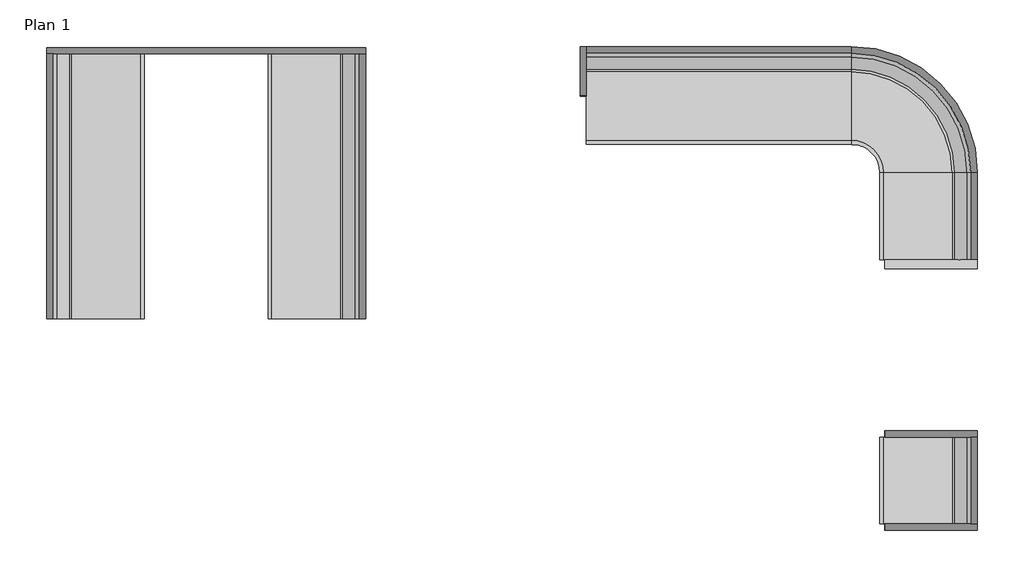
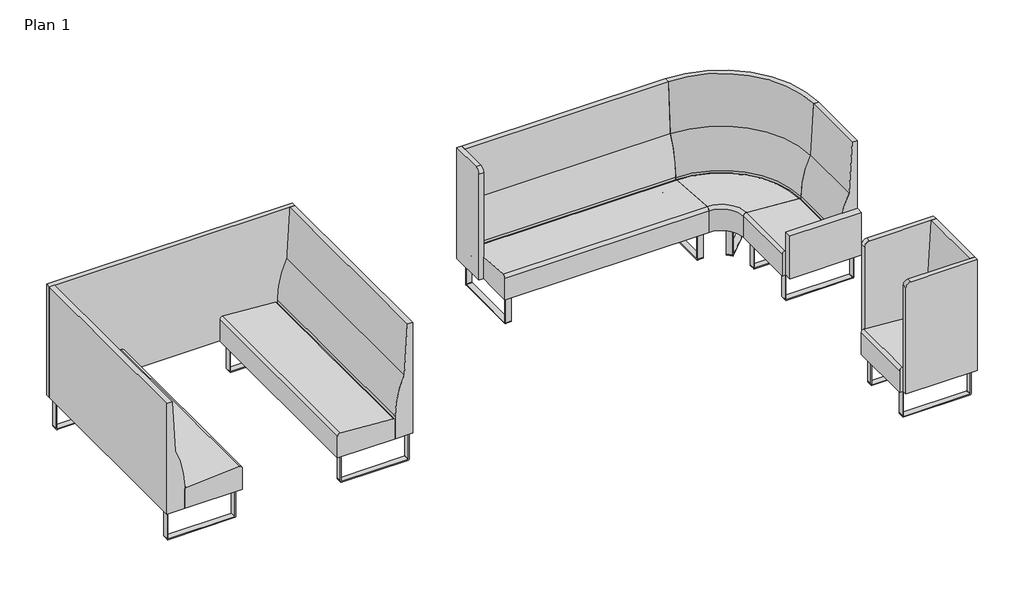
# One storey: 11 furniture elements.
"""IFC4 building model written with IfcOpenShell, lengths in millimetres."""

import ifcopenshell
import ifcopenshell.guid

model = None  # the IFC model being written
_history = None  # IfcOwnerHistory: only IFC2X3 demands one
_inside = {}  # id of a spatial element -> (the spatial element, [elements in it])
_under = {}  # id of a project, library or spatial element -> (it, [spatial elements below it])
_declared = {}  # id of a project -> (the project, [libraries it declares])
_typed = {}  # id of a type object -> (the type object, [elements of that type])
_made_of = {}  # id of a material, layer set ... -> (it, [elements and type objects made of it])


def new_model(schema):
    """Start an empty IFC model of exactly this schema.

    Asked for "IFC4X3", IfcOpenShell would pick the latest addendum, in which some entities
    have other attributes; the version numbers below select the first issue.
    IFC2X3 requires an IfcOwnerHistory on every rooted entity: one is made here for all.
    """
    global model, _history
    if schema == "IFC4X3":
        model = ifcopenshell.file(schema_version=(4, 3, 0, 0))
    else:
        model = ifcopenshell.file(schema=schema)
    _inside.clear()
    _under.clear()
    _declared.clear()
    _typed.clear()
    _made_of.clear()
    _history = None
    if model.schema == "IFC2X3":
        org = make("IfcOrganization", Name="unknown")
        user = make(
            "IfcPersonAndOrganization",
            ThePerson=make("IfcPerson", FamilyName="unknown"),
            TheOrganization=org,
        )
        app = make(
            "IfcApplication",
            ApplicationDeveloper=org,
            Version="unknown",
            ApplicationFullName="unknown",
            ApplicationIdentifier="unknown",
        )
        _history = make(
            "IfcOwnerHistory",
            OwningUser=user,
            OwningApplication=app,
            ChangeAction="ADDED",
            CreationDate=0,
        )
    return model


def make(cls, **values):
    """One entity of the class cls with the attributes given. An attribute that is None is left unset."""
    return model.create_entity(
        cls, **{name: value for name, value in values.items() if value is not None}
    )


def rooted(cls, **values):
    """An entity with a GlobalId (a new one), such as an element, a storey or a relation."""
    return make(cls, GlobalId=ifcopenshell.guid.new(), OwnerHistory=_history, **values)


def si_unit(unit_type, name, prefix=None):
    """IfcSIUnit, for example si_unit("LENGTHUNIT", "METRE", prefix="MILLI")."""
    return make("IfcSIUnit", UnitType=unit_type, Prefix=prefix, Name=name)


def assignment(units):
    """IfcUnitAssignment: the units of a project."""
    return None if units is None else make("IfcUnitAssignment", Units=units)


def point(xyz):
    """IfcCartesianPoint."""
    return None if xyz is None else make("IfcCartesianPoint", Coordinates=xyz)


def direction(xyz):
    """IfcDirection."""
    return None if xyz is None else make("IfcDirection", DirectionRatios=xyz)


def frame(location, z_axis=None, x_axis=None):
    """IfcAxis2Placement3D, a coordinate frame: its origin and axes. An axis left out is left unset."""
    return make(
        "IfcAxis2Placement3D",
        Location=point(location),
        Axis=direction(z_axis),
        RefDirection=direction(x_axis),
    )


def frame_2d(location, x_axis=None):
    """IfcAxis2Placement2D, a coordinate frame in the plane: its origin and x axis."""
    return make(
        "IfcAxis2Placement2D", Location=point(location), RefDirection=direction(x_axis)
    )


def origin():
    """The frame at (0, 0, 0) with its axes left unset."""
    return frame((0.0, 0.0, 0.0))


def place(relative_to, where):
    """IfcLocalPlacement: puts the frame where relative to a parent placement (None: the world)."""
    return make(
        "IfcLocalPlacement", PlacementRelTo=relative_to, RelativePlacement=where
    )


def context(
    kind, dimensions, precision=None, world=None, true_north=None, identifier=None
):
    """IfcGeometricRepresentationContext, for example the 3D "Model" context."""
    return make(
        "IfcGeometricRepresentationContext",
        ContextIdentifier=identifier,
        ContextType=kind,
        CoordinateSpaceDimension=dimensions,
        Precision=precision,
        WorldCoordinateSystem=world,
        TrueNorth=true_north,
    )


def project(units=None, contexts=None):
    """IfcProject with its units and contexts."""
    return rooted(
        "IfcProject",
        Name="project",
        RepresentationContexts=contexts,
        UnitsInContext=assignment(units),
    )


def spatial(cls, under=None, at=None, **own):
    """A site, building, storey or space (cls), placed at a placement, below another one or the project."""
    s = rooted(cls, ObjectPlacement=at, **own)
    if under is not None:
        _under.setdefault(under.id(), (under, []))[1].append(s)
    return s


def polyline(points):
    """IfcPolyline through the points."""
    return make("IfcPolyline", Points=[point(p) for p in points])


def circle_curve(where, radius):
    """IfcCircle in the frame where."""
    return make("IfcCircle", Position=where, Radius=radius)


def ellipse_curve(where, semi_axis1, semi_axis2):
    """IfcEllipse in the frame where."""
    return make(
        "IfcEllipse", Position=where, SemiAxis1=semi_axis1, SemiAxis2=semi_axis2
    )


def trimmed(basis, trim1, trim2, sense, master):
    """IfcTrimmedCurve: the piece of a basis curve between two trims."""
    return make(
        "IfcTrimmedCurve",
        BasisCurve=basis,
        Trim1=trim1,
        Trim2=trim2,
        SenseAgreement=sense,
        MasterRepresentation=master,
    )


def segment(curve, same_sense, transition):
    """IfcCompositeCurveSegment."""
    return make(
        "IfcCompositeCurveSegment",
        Transition=transition,
        SameSense=same_sense,
        ParentCurve=curve,
    )


def composite_curve(segments, self_intersect=None):
    """IfcCompositeCurve: segments joined end to end."""
    return make("IfcCompositeCurve", Segments=segments, SelfIntersect=self_intersect)


def outline(outer, holes=None, kind="AREA"):
    """IfcArbitraryClosedProfileDef: a profile drawn as a closed curve; with holes, ...WithVoids."""
    if holes is None:
        return make("IfcArbitraryClosedProfileDef", ProfileType=kind, OuterCurve=outer)
    return make(
        "IfcArbitraryProfileDefWithVoids",
        ProfileType=kind,
        OuterCurve=outer,
        InnerCurves=holes,
    )


def extrude(swept, where, along, depth):
    """IfcExtrudedAreaSolid: the profile swept, set in the frame where, extruded along a direction by depth."""
    return make(
        "IfcExtrudedAreaSolid",
        SweptArea=swept,
        Position=where,
        ExtrudedDirection=direction(along),
        Depth=depth,
    )


def shape(context_of_items, identifier, shape_type, items):
    """IfcShapeRepresentation: the items that make up one representation, for example the "Body"."""
    return make(
        "IfcShapeRepresentation",
        ContextOfItems=context_of_items,
        RepresentationIdentifier=identifier,
        RepresentationType=shape_type,
        Items=items,
    )


def source(mapping_origin, context_of_items, identifier, shape_type, items):
    """IfcRepresentationMap: a shape defined once, which mapped items show again and again."""
    return make(
        "IfcRepresentationMap",
        MappingOrigin=mapping_origin,
        MappedRepresentation=shape(context_of_items, identifier, shape_type, items),
    )


def transform(
    local_origin,
    x_axis=None,
    y_axis=None,
    z_axis=None,
    scale=None,
    scale2=None,
    scale3=None,
    uniform=True,
):
    """IfcCartesianTransformationOperator3D, or its non-uniform kind. x_axis, y_axis, z_axis: its Axis1, 2, 3."""
    if uniform:
        return make(
            "IfcCartesianTransformationOperator3D",
            Axis1=direction(x_axis),
            Axis2=direction(y_axis),
            LocalOrigin=point(local_origin),
            Scale=scale,
            Axis3=direction(z_axis),
        )
    return make(
        "IfcCartesianTransformationOperator3DnonUniform",
        Axis1=direction(x_axis),
        Axis2=direction(y_axis),
        LocalOrigin=point(local_origin),
        Scale=scale,
        Axis3=direction(z_axis),
        Scale2=scale2,
        Scale3=scale3,
    )


def mapped(mapping_source, mapping_target):
    """IfcMappedItem: shows the shape of a source again, moved by a transform."""
    return make(
        "IfcMappedItem", MappingSource=mapping_source, MappingTarget=mapping_target
    )


def made_of(thing, what):
    """Note that an element or type object is made of a material, layer set ...; save() writes the relation."""
    if what is not None:
        _made_of.setdefault(what.id(), (what, []))[1].append(thing)
    return thing


def element(
    cls,
    number,
    at=None,
    inside=None,
    cuts=None,
    type_object=None,
    material=None,
    context=None,
    identifier="Body",
    shape_type=None,
    held_by="IfcProductDefinitionShape",
    body=None,
    shapes=None,
    **own,
):
    """One element of the class cls, such as IfcWall. Its Tag is "e" and its number.

    at: its placement. inside: the storey or other place that contains it. cuts: it is an
    opening in that element (IfcRelVoidsElement). A single representation is given by context,
    identifier, shape_type and body (its items); several are given by shapes. held_by: the class
    of the entity that holds the representations. save() writes the other relations.
    """
    e = rooted(cls, Tag="e%d" % number, ObjectPlacement=at, **own)
    if body is not None:
        shapes = [shape(context, identifier, shape_type, body)]
    if shapes is not None:
        e.Representation = make(held_by, Representations=shapes)
    if inside is not None:
        _inside.setdefault(inside.id(), (inside, []))[1].append(e)
    if cuts is not None:
        rooted(
            "IfcRelVoidsElement", RelatingBuildingElement=cuts, RelatedOpeningElement=e
        )
    if type_object is not None:
        _typed.setdefault(type_object.id(), (type_object, []))[1].append(e)
    return made_of(e, material)


def aggregate(whole, parts):
    """IfcRelAggregates: a whole, such as a stair, and the parts it consists of."""
    return rooted("IfcRelAggregates", RelatingObject=whole, RelatedObjects=parts)


def save(model, path):
    """Write the relations noted so far, then the file.

    IfcRelAggregates (storeys below a building ...), IfcRelContainedInSpatialStructure (elements
    in a storey), IfcRelDefinesByType, IfcRelAssociatesMaterial and IfcRelDeclares: one each for
    every whole, place, type object, material and project.
    """
    for whole, parts in _under.values():
        aggregate(whole, parts)
    for where, things in _inside.values():
        rooted(
            "IfcRelContainedInSpatialStructure",
            RelatedElements=things,
            RelatingStructure=where,
        )
    for kind, things in _typed.values():
        rooted("IfcRelDefinesByType", RelatedObjects=things, RelatingType=kind)
    for what, things in _made_of.values():
        rooted("IfcRelAssociatesMaterial", RelatedObjects=things, RelatingMaterial=what)
    for by, libraries in _declared.values():
        rooted("IfcRelDeclares", RelatingContext=by, RelatedDefinitions=libraries)
    model.write(path)


def plane_surface(at):
    """IfcPlane: the flat surface through the origin of the frame at, square to its z axis."""
    return make("IfcPlane", Position=at)


def cylinder_surface(at, radius):
    """IfcCylindricalSurface: all points at the distance radius from the z axis of the frame at."""
    return make("IfcCylindricalSurface", Position=at, Radius=radius)


def revolved_surface(curve, axis_point, axis_direction):
    """IfcSurfaceOfRevolution: the curve turned about the line through axis_point along axis_direction."""
    return make(
        "IfcSurfaceOfRevolution",
        SweptCurve=make("IfcArbitraryOpenProfileDef", ProfileType="CURVE", Curve=curve),
        AxisPosition=make("IfcAxis1Placement", Location=point(axis_point), Axis=direction(axis_direction)),
    )


def advanced_brep(points, edges, surfaces, faces):
    """IfcAdvancedBrep: a solid bounded by faces that lie on surfaces and meet in shared edges.

    An edge is (start, end): straight between two places in points (the first is 0);
    or (start, end, curve); or (start, end, curve, False) where it runs against its curve.
    A face is (place in surfaces, loops), or (place, loops, False) where it looks against
    its surface's normal. A loop lists edges by number (the first is 1), with a minus sign
    where the edge is run from its end to its start. The first loop is the outer one.
    """
    corners = [point(p) for p in points]
    vertices = [make("IfcVertexPoint", VertexGeometry=c) for c in corners]
    made = []
    for start, end, *more in edges:
        made.append(
            make(
                "IfcEdgeCurve",
                EdgeStart=vertices[start],
                EdgeEnd=vertices[end],
                EdgeGeometry=more[0] if more else make("IfcPolyline", Points=[corners[start], corners[end]]),
                SameSense=more[1] if len(more) > 1 else True,
            )
        )
    hull = []
    for where, loops, *sense in faces:
        bounds = []
        for j, loop in enumerate(loops):
            ring = [make("IfcOrientedEdge", EdgeElement=made[abs(k) - 1], Orientation=k > 0) for k in loop]
            bounds.append(
                make(
                    "IfcFaceOuterBound" if j == 0 else "IfcFaceBound",
                    Bound=make("IfcEdgeLoop", EdgeList=ring),
                    Orientation=True,
                )
            )
        hull.append(make("IfcAdvancedFace", Bounds=bounds, FaceSurface=surfaces[where], SameSense=sense[0] if sense else True))
    return make("IfcAdvancedBrep", Outer=make("IfcClosedShell", CfsFaces=hull))


def furniture_1_seat_560_mm_57b8e91f(model_context):
    return source(origin(), model_context, "Body", "SweptSolid", [
        extrude(outline(composite_curve([segment(trimmed(circle_curve(frame_2d((-23.0000292, 239.0000149)), 8.0), [point((-23.0000292, 247.0000149))], [point((-15.0000292, 239.0000149))], False, "CARTESIAN"), True, "CONTINUOUS"), segment(polyline([(-15.0000292, 239.0000149), (-15.0000292, 8.0)]), True, "CONTINUOUS"), segment(trimmed(circle_curve(frame_2d((-23.0000292, 8.0)), 8.0), [point((-15.0000292, 8.0))], [point((-23.0000292, 0.0))], False, "CARTESIAN"), True, "CONTINUOUS"), segment(polyline([(-23.0000292, 0.0), (-582.0, 0.0)]), True, "CONTINUOUS"), segment(trimmed(circle_curve(frame_2d((-582.0, 8.0)), 8.0), [point((-582.0, 0.0))], [point((-590.0, 8.0))], False, "CARTESIAN"), True, "CONTINUOUS"), segment(polyline([(-590.0, 8.0), (-590.0, 248.000015), (-584.0, 248.000015), (-584.0, 8.0)]), True, "CONTINUOUS"), segment(trimmed(circle_curve(frame_2d((-582.0, 8.0)), 2.0), [point((-584.0, 8.0))], [point((-582.0, 6.0))], True, "CARTESIAN"), True, "CONTINUOUS"), segment(polyline([(-582.0, 6.0), (-23.0000292, 6.0)]), True, "CONTINUOUS"), segment(trimmed(circle_curve(frame_2d((-23.0000292, 8.0)), 2.0), [point((-23.0000292, 6.0))], [point((-21.0000292, 8.0))], True, "CARTESIAN"), True, "CONTINUOUS"), segment(polyline([(-21.0000292, 8.0), (-21.0000292, 239.0000149)]), True, "CONTINUOUS"), segment(trimmed(circle_curve(frame_2d((-23.0000292, 239.0000149)), 2.0), [point((-21.0000292, 239.0000149))], [point((-23.0000292, 241.0000149))], True, "CARTESIAN"), True, "CONTINUOUS"), segment(polyline([(-23.0000292, 241.0000149), (-123.0000504, 241.0000149), (-123.0000504, 247.0000149), (-23.0000292, 247.0000149)]), True, "CONTINUOUS")], self_intersect=False)), frame((204.9999917, 0.0, 0.0), z_axis=(1.0, 0.0, 0.0), x_axis=(0.0, 1.0, 0.0)), (0.0, 0.0, 1.0), 49.999964),
        extrude(outline(composite_curve([segment(trimmed(circle_curve(frame_2d((-23.0000292, 239.0000149)), 8.0), [point((-23.0000292, 247.0000149))], [point((-15.0000292, 239.0000149))], False, "CARTESIAN"), True, "CONTINUOUS"), segment(polyline([(-15.0000292, 239.0000149), (-15.0000292, 8.0)]), True, "CONTINUOUS"), segment(trimmed(circle_curve(frame_2d((-23.0000292, 8.0)), 8.0), [point((-15.0000292, 8.0))], [point((-23.0000292, 0.0))], False, "CARTESIAN"), True, "CONTINUOUS"), segment(polyline([(-23.0000292, 0.0), (-582.0, 0.0)]), True, "CONTINUOUS"), segment(trimmed(circle_curve(frame_2d((-582.0, 8.0)), 8.0), [point((-582.0, 0.0))], [point((-590.0, 8.0))], False, "CARTESIAN"), True, "CONTINUOUS"), segment(polyline([(-590.0, 8.0), (-590.0, 248.000015), (-584.0, 248.000015), (-584.0, 8.0)]), True, "CONTINUOUS"), segment(trimmed(circle_curve(frame_2d((-582.0, 8.0)), 2.0), [point((-584.0, 8.0))], [point((-582.0, 6.0))], True, "CARTESIAN"), True, "CONTINUOUS"), segment(polyline([(-582.0, 6.0), (-23.0000292, 6.0)]), True, "CONTINUOUS"), segment(trimmed(circle_curve(frame_2d((-23.0000292, 8.0)), 2.0), [point((-23.0000292, 6.0))], [point((-21.0000292, 8.0))], True, "CARTESIAN"), True, "CONTINUOUS"), segment(polyline([(-21.0000292, 8.0), (-21.0000292, 239.0000149)]), True, "CONTINUOUS"), segment(trimmed(circle_curve(frame_2d((-23.0000292, 239.0000149)), 2.0), [point((-21.0000292, 239.0000149))], [point((-23.0000292, 241.0000149))], True, "CARTESIAN"), True, "CONTINUOUS"), segment(polyline([(-23.0000292, 241.0000149), (-123.0000504, 241.0000149), (-123.0000504, 247.0000149), (-23.0000292, 247.0000149)]), True, "CONTINUOUS")], self_intersect=False)), frame((-254.9999557, 0.0, 0.0), z_axis=(1.0, 0.0, 0.0), x_axis=(0.0, 1.0, 0.0)), (0.0, 0.0, 1.0), 49.999964),
        extrude(outline(composite_curve([segment(polyline([(-147.0000389, 248.000015), (-630.0, 248.000015), (-630.0, 437.2884276)]), True, "CONTINUOUS"), segment(trimmed(circle_curve(frame_2d((-605.0000646, 437.2884276)), 24.9999354), [point((-630.0, 437.2884276))], [point((-605.4110478, 462.2849846))], False, "CARTESIAN"), True, "CONTINUOUS"), segment(trimmed(circle_curve(frame_2d((-564.312542, -2037.3815818)), 2500.0044061), [point((-605.4110478, 462.2849846))], [point((-163.7959115, 430.3316226))], False, "CARTESIAN"), True, "CONTINUOUS"), segment(trimmed(circle_curve(frame_2d((-167.0000389, 410.5899518)), 20.0), [point((-163.7959115, 430.3316226))], [point((-147.0000389, 410.5899518))], False, "CARTESIAN"), True, "CONTINUOUS"), segment(polyline([(-147.0000389, 410.5899518), (-147.0000389, 248.000015)]), True, "CONTINUOUS")], self_intersect=False)), frame((-280.0, 0.0, 0.0), z_axis=(1.0, 0.0, 0.0), x_axis=(0.0, 1.0, 0.0)), (0.0, 0.0, 1.0), 560.0),
        extrude(outline(composite_curve([segment(polyline([(-147.0000389, 248.000015), (-147.0000389, 446.0000099)]), True, "CONTINUOUS"), segment(trimmed(circle_curve(frame_2d((627.5678884, 446.0000099)), 774.5679273), [point((-147.0000389, 446.0000099))], [point((-68.6091531, 785.5482405))], False, "CARTESIAN"), True, "CONTINUOUS"), segment(trimmed(circle_curve(frame_2d((4491.9277809, 744.7839853)), 4560.7191156), [point((-68.6091531, 785.5482405))], [point((-42.9067552, 1230.0))], False, "CARTESIAN"), True, "CONTINUOUS"), segment(polyline([(-42.9067552, 1230.0), (0.0, 1230.0), (0.0, 248.000015), (-147.0000389, 248.000015)]), True, "CONTINUOUS")], self_intersect=False)), frame((-280.0, 0.0, 0.0), z_axis=(1.0, 0.0, 0.0), x_axis=(0.0, 1.0, 0.0)), (0.0, 0.0, 1.0), 560.0),
    ])


def furniture_2060_mm_46935509(model_context):
    return source(origin(), model_context, "Body", "SweptSolid", [
        extrude(outline(polyline([(0.0, 0.0), (-40.0, 0.0), (-40.0, 2060.0), (0.0, 2060.0), (0.0, 0.0)])), frame((0.0, 0.0, 248.0), z_axis=(0.0, 0.0, 1.0), x_axis=(1.0, 0.0, 0.0)), (0.0, 0.0, 1.0), 982.0),
    ])


def furniture_3_seat_1710_mm_4decf27b(model_context):
    return source(origin(), model_context, "Body", "SweptSolid", [
        extrude(outline(composite_curve([segment(trimmed(circle_curve(frame_2d((-23.0000292, 239.0000149)), 8.0), [point((-23.0000292, 247.0000149))], [point((-15.0000292, 239.0000149))], False, "CARTESIAN"), True, "CONTINUOUS"), segment(polyline([(-15.0000292, 239.0000149), (-15.0000292, 8.0)]), True, "CONTINUOUS"), segment(trimmed(circle_curve(frame_2d((-23.0000292, 8.0)), 8.0), [point((-15.0000292, 8.0))], [point((-23.0000292, 0.0))], False, "CARTESIAN"), True, "CONTINUOUS"), segment(polyline([(-23.0000292, 0.0), (-582.0, 0.0)]), True, "CONTINUOUS"), segment(trimmed(circle_curve(frame_2d((-582.0, 8.0)), 8.0), [point((-582.0, 0.0))], [point((-590.0, 8.0))], False, "CARTESIAN"), True, "CONTINUOUS"), segment(polyline([(-590.0, 8.0), (-590.0, 248.000015), (-584.0, 248.000015), (-584.0, 8.0)]), True, "CONTINUOUS"), segment(trimmed(circle_curve(frame_2d((-582.0, 8.0)), 2.0), [point((-584.0, 8.0))], [point((-582.0, 6.0))], True, "CARTESIAN"), True, "CONTINUOUS"), segment(polyline([(-582.0, 6.0), (-23.0000292, 6.0)]), True, "CONTINUOUS"), segment(trimmed(circle_curve(frame_2d((-23.0000292, 8.0)), 2.0), [point((-23.0000292, 6.0))], [point((-21.0000292, 8.0))], True, "CARTESIAN"), True, "CONTINUOUS"), segment(polyline([(-21.0000292, 8.0), (-21.0000292, 239.0000149)]), True, "CONTINUOUS"), segment(trimmed(circle_curve(frame_2d((-23.0000292, 239.0000149)), 2.0), [point((-21.0000292, 239.0000149))], [point((-23.0000292, 241.0000149))], True, "CARTESIAN"), True, "CONTINUOUS"), segment(polyline([(-23.0000292, 241.0000149), (-123.0000504, 241.0000149), (-123.0000504, 247.0000149), (-23.0000292, 247.0000149)]), True, "CONTINUOUS")], self_intersect=False)), frame((779.9999917, 0.0, 0.0), z_axis=(1.0, 0.0, 0.0), x_axis=(0.0, 1.0, 0.0)), (0.0, 0.0, 1.0), 49.999964),
        extrude(outline(composite_curve([segment(trimmed(circle_curve(frame_2d((-23.0000292, 239.0000149)), 8.0), [point((-23.0000292, 247.0000149))], [point((-15.0000292, 239.0000149))], False, "CARTESIAN"), True, "CONTINUOUS"), segment(polyline([(-15.0000292, 239.0000149), (-15.0000292, 8.0)]), True, "CONTINUOUS"), segment(trimmed(circle_curve(frame_2d((-23.0000292, 8.0)), 8.0), [point((-15.0000292, 8.0))], [point((-23.0000292, 0.0))], False, "CARTESIAN"), True, "CONTINUOUS"), segment(polyline([(-23.0000292, 0.0), (-582.0, 0.0)]), True, "CONTINUOUS"), segment(trimmed(circle_curve(frame_2d((-582.0, 8.0)), 8.0), [point((-582.0, 0.0))], [point((-590.0, 8.0))], False, "CARTESIAN"), True, "CONTINUOUS"), segment(polyline([(-590.0, 8.0), (-590.0, 248.000015), (-584.0, 248.000015), (-584.0, 8.0)]), True, "CONTINUOUS"), segment(trimmed(circle_curve(frame_2d((-582.0, 8.0)), 2.0), [point((-584.0, 8.0))], [point((-582.0, 6.0))], True, "CARTESIAN"), True, "CONTINUOUS"), segment(polyline([(-582.0, 6.0), (-23.0000292, 6.0)]), True, "CONTINUOUS"), segment(trimmed(circle_curve(frame_2d((-23.0000292, 8.0)), 2.0), [point((-23.0000292, 6.0))], [point((-21.0000292, 8.0))], True, "CARTESIAN"), True, "CONTINUOUS"), segment(polyline([(-21.0000292, 8.0), (-21.0000292, 239.0000149)]), True, "CONTINUOUS"), segment(trimmed(circle_curve(frame_2d((-23.0000292, 239.0000149)), 2.0), [point((-21.0000292, 239.0000149))], [point((-23.0000292, 241.0000149))], True, "CARTESIAN"), True, "CONTINUOUS"), segment(polyline([(-23.0000292, 241.0000149), (-123.0000504, 241.0000149), (-123.0000504, 247.0000149), (-23.0000292, 247.0000149)]), True, "CONTINUOUS")], self_intersect=False)), frame((-829.9999557, 0.0, 0.0), z_axis=(1.0, 0.0, 0.0), x_axis=(0.0, 1.0, 0.0)), (0.0, 0.0, 1.0), 49.999964),
        extrude(outline(composite_curve([segment(polyline([(-147.0000389, 248.000015), (-630.0, 248.000015), (-630.0, 437.2884276)]), True, "CONTINUOUS"), segment(trimmed(circle_curve(frame_2d((-605.0000646, 437.2884276)), 24.9999354), [point((-630.0, 437.2884276))], [point((-605.4110478, 462.2849846))], False, "CARTESIAN"), True, "CONTINUOUS"), segment(trimmed(circle_curve(frame_2d((-564.312542, -2037.3815818)), 2500.0044061), [point((-605.4110478, 462.2849846))], [point((-163.7959115, 430.3316226))], False, "CARTESIAN"), True, "CONTINUOUS"), segment(trimmed(circle_curve(frame_2d((-167.0000389, 410.5899518)), 20.0), [point((-163.7959115, 430.3316226))], [point((-147.0000389, 410.5899518))], False, "CARTESIAN"), True, "CONTINUOUS"), segment(polyline([(-147.0000389, 410.5899518), (-147.0000389, 248.000015)]), True, "CONTINUOUS")], self_intersect=False)), frame((-855.0, 0.0, 0.0), z_axis=(1.0, 0.0, 0.0), x_axis=(0.0, 1.0, 0.0)), (0.0, 0.0, 1.0), 1710.0),
        extrude(outline(composite_curve([segment(polyline([(-147.0000389, 248.000015), (-147.0000389, 446.0000099)]), True, "CONTINUOUS"), segment(trimmed(circle_curve(frame_2d((627.5678884, 446.0000099)), 774.5679273), [point((-147.0000389, 446.0000099))], [point((-68.6091531, 785.5482405))], False, "CARTESIAN"), True, "CONTINUOUS"), segment(trimmed(circle_curve(frame_2d((4491.9277809, 744.7839853)), 4560.7191156), [point((-68.6091531, 785.5482405))], [point((-42.9067552, 1230.0))], False, "CARTESIAN"), True, "CONTINUOUS"), segment(polyline([(-42.9067552, 1230.0), (0.0, 1230.0), (0.0, 248.000015), (-147.0000389, 248.000015)]), True, "CONTINUOUS")], self_intersect=False)), frame((-855.0, 0.0, 0.0), z_axis=(1.0, 0.0, 0.0), x_axis=(0.0, 1.0, 0.0)), (0.0, 0.0, 1.0), 1710.0),
    ])


def furniture_320_mm_388ba201(model_context):
    return source(origin(), model_context, "Body", "SweptSolid", [
        extrude(outline(composite_curve([segment(polyline([(-280.0, 1230.0), (0.0, 1230.0), (0.0, 248.0), (-320.0, 248.0), (-320.0, 1190.0)]), True, "CONTINUOUS"), segment(trimmed(circle_curve(frame_2d((-280.0, 1190.0)), 40.0), [point((-320.0, 1190.0))], [point((-280.0, 1230.0))], False, "CARTESIAN"), True, "CONTINUOUS")], self_intersect=False)), frame((-39.9999749, 0.0, 0.0), z_axis=(1.0, 0.0, 0.0), x_axis=(0.0, 1.0, 0.0)), (0.0, 0.0, 1.0), 39.9999749),
    ])


def furniture_600_mm_ed741360(model_context):
    return source(origin(), model_context, "Body", "SweptSolid", [
        extrude(outline(composite_curve([segment(polyline([(-560.0000591, 1230.0), (0.0, 1230.0), (0.0, 248.0), (-600.0000591, 248.0), (-600.0000591, 1190.0)]), True, "CONTINUOUS"), segment(trimmed(circle_curve(frame_2d((-560.0000591, 1190.0)), 40.0), [point((-600.0000591, 1190.0))], [point((-560.0000591, 1230.0))], False, "CARTESIAN"), True, "CONTINUOUS")], self_intersect=False)), frame((-39.9999749, 0.0, 0.0), z_axis=(1.0, 0.0, 0.0), x_axis=(0.0, 1.0, 0.0)), (0.0, 0.0, 1.0), 39.9999749),
    ])


def furniture_600_mm_d9a1362c(model_context):
    return source(origin(), model_context, "Body", "SweptSolid", [
        extrude(outline(composite_curve([segment(trimmed(circle_curve(frame_2d((560.0000591, 1190.0)), 40.0), [point((560.0000591, 1230.0))], [point((600.0000591, 1190.0))], False, "CARTESIAN"), True, "CONTINUOUS"), segment(polyline([(600.0000591, 1190.0), (600.0000591, 248.0), (0.0, 248.0), (0.0, 1230.0), (560.0000591, 1230.0)]), True, "CONTINUOUS")], self_intersect=False)), frame((-39.9999749, 0.0, 0.0), z_axis=(1.0, 0.0, 0.0), x_axis=(0.0, 1.0, 0.0)), (0.0, 0.0, 1.0), 39.9999749),
    ])


def furniture_600_mm_6fd5deb9(model_context):
    return source(origin(), model_context, "Body", "SweptSolid", [
        extrude(outline(polyline([(0.0, 0.0), (-60.0000441, 0.0), (-60.0000441, 600.0000772), (0.0, 600.0000772), (0.0, 0.0)])), frame((0.0, 0.0, 248.000015), z_axis=(0.0, 0.0, 1.0), x_axis=(1.0, 0.0, 0.0)), (0.0, 0.0, 1.0), 380.0000247),
    ])


def corner_815x815_mm_a8b0d3e5(model_context):
    return source(origin(), model_context, "Body", "SolidModel", [
        extrude(outline(composite_curve([segment(trimmed(circle_curve(frame_2d((100.0000212, -8.0)), 8.0), [point((100.0000212, 0.0))], [point((108.0000212, -8.0))], False, "CARTESIAN"), True, "CONTINUOUS"), segment(polyline([(108.0000212, -8.0), (108.0000212, -239.0000149)]), True, "CONTINUOUS"), segment(trimmed(circle_curve(frame_2d((100.0000212, -239.0000149)), 8.0), [point((108.0000212, -239.0000149))], [point((100.0000212, -247.0000149))], False, "CARTESIAN"), True, "CONTINUOUS"), segment(polyline([(100.0000212, -247.0000149), (-458.9999496, -247.0000149)]), True, "CONTINUOUS"), segment(trimmed(circle_curve(frame_2d((-458.9999496, -239.0000149)), 8.0), [point((-458.9999496, -247.0000149))], [point((-466.9999496, -239.0000149))], False, "CARTESIAN"), True, "CONTINUOUS"), segment(polyline([(-466.9999496, -239.0000149), (-466.9999496, 1.0000001), (-460.9999496, 1.0000001), (-460.9999496, -239.0000149)]), True, "CONTINUOUS"), segment(trimmed(circle_curve(frame_2d((-458.9999496, -239.0000149)), 2.0), [point((-460.9999496, -239.0000149))], [point((-458.9999496, -241.0000149))], True, "CARTESIAN"), True, "CONTINUOUS"), segment(polyline([(-458.9999496, -241.0000149), (100.0000212, -241.0000149)]), True, "CONTINUOUS"), segment(trimmed(circle_curve(frame_2d((100.0000212, -239.0000149)), 2.0), [point((100.0000212, -241.0000149))], [point((102.0000212, -239.0000149))], True, "CARTESIAN"), True, "CONTINUOUS"), segment(polyline([(102.0000212, -239.0000149), (102.0000212, -8.0)]), True, "CONTINUOUS"), segment(trimmed(circle_curve(frame_2d((100.0000212, -8.0)), 2.0), [point((102.0000212, -8.0))], [point((100.0000212, -6.0))], True, "CARTESIAN"), True, "CONTINUOUS"), segment(polyline([(100.0000212, -6.0), (0.0, -6.0), (0.0, 0.0), (100.0000212, 0.0)]), True, "CONTINUOUS")], self_intersect=False)), frame((253.1443298, -597.2111783, 247.0000149), z_axis=(-0.7071067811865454, 0.7071067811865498, 0.0), x_axis=(-0.7071067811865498, -0.7071067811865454, 0.0)), (0.0, 0.0, 1.0), 50.0000863),
        advanced_brep(
        [(0.0, -147.0001019, 248.000015), (0.0, -147.0001019, 442.0000309), (0.0, -68.6092161, 781.5482615), (0.0, -42.4770459, 1230.0), (0.0, -6.29e-05, 1230.0), (0.0, -6.29e-05, 248.000015), (667.9998608, -814.9999626, 248.000015), (814.9998997, -814.9999626, 248.000015), (814.9998997, -814.9999626, 1230.0), (772.5229167, -814.9999626, 1230.0), (746.3907466, -814.9999626, 781.5482615), (667.9998608, -814.9999626, 442.0000309)],
        [
            (0, 1),
            (1, 2, circle_curve(frame((0.0, 627.5678255, 442.0000309), z_axis=(-1.0, 0.0, 0.0), x_axis=(0.0, 1.0, 0.0)), 774.5679273)),
            (2, 3, circle_curve(frame((0.0, 4491.927718, 740.7840063), z_axis=(-1.0, 0.0, 0.0), x_axis=(0.0, 1.0, 0.0)), 4560.7191156)),
            (3, 4),
            (4, 5),
            (5, 0),
            (6, 7),
            (7, 8),
            (8, 9),
            (9, 10, circle_curve(frame((5306.9276806, -814.9999626, 740.7840063), z_axis=(0.0, -1.0, 0.0), x_axis=(1.0, 0.0, 0.0)), 4560.7191156)),
            (10, 11, circle_curve(frame((1442.5677881, -814.9999626, 442.0000309), z_axis=(0.0, -1.0, 0.0), x_axis=(1.0, 0.0, 0.0)), 774.5679273)),
            (11, 6),
            (6, 0, circle_curve(frame((0.0, -814.9999626, 248.000015), z_axis=(0.0, 0.0, 1.0), x_axis=(0.0, 1.0, 0.0)), 667.9998608)),
            (5, 7, circle_curve(frame((0.0, -814.9999626, 248.000015), z_axis=(0.0, 0.0, -1.0), x_axis=(0.0, 1.0, 0.0)), 814.9998997)),
            (4, 8, circle_curve(frame((0.0, -814.9999626, 1230.0), z_axis=(0.0, 0.0, -1.0), x_axis=(0.0, 1.0, 0.0)), 814.9998997)),
            (3, 9, circle_curve(frame((0.0, -814.9999626, 1230.0), z_axis=(0.0, 0.0, -1.0), x_axis=(0.0, 1.0, 0.0)), 772.5229167)),
            (2, 10, circle_curve(frame((0.0, -814.9999626, 781.5482615), z_axis=(0.0, 0.0, -1.0), x_axis=(0.0, 1.0, 0.0)), 746.3907466)),
            (1, 11, circle_curve(frame((0.0, -814.9999626, 442.0000309), z_axis=(0.0, 0.0, -1.0), x_axis=(0.0, 1.0, 0.0)), 667.9998608)),
        ],
        [
            plane_surface(frame((0.0, -814.9999626, 1366.000021), z_axis=(-1.0, 0.0, 0.0), x_axis=(0.0, 1.0, 0.0))),
            plane_surface(frame((0.0, -814.9999626, 1366.000021), z_axis=(0.0, -1.0, 0.0), x_axis=(1.0, 0.0, 0.0))),
            plane_surface(frame((0.0, -814.9999626, 248.000015), z_axis=(0.0, 0.0, -1.0), x_axis=(0.0, 1.0, 0.0))),
            cylinder_surface(frame((0.0, -814.9999626, 1366.000021), z_axis=(0.0, 0.0, 1.0), x_axis=(0.0, 1.0, 0.0)), 814.9998997),
            plane_surface(frame((0.0, -814.9999626, 1230.0), z_axis=(0.0, 0.0, 1.0), x_axis=(0.0, 1.0, 0.0))),
            revolved_surface(trimmed(ellipse_curve(frame((0.0, 4491.927718, 740.7840063), z_axis=(1.0, 0.0, 0.0), x_axis=(0.0, 1.0, 0.0)), 4560.7191156, 4560.7191156), [point((0.0, -42.4770459, 1230.0))], [point((0.0, -68.6092161, 781.5482615))], True, "CARTESIAN"), (0.0, -814.9999626, 1366.000021), (0.0, 0.0, 1.0)),
            revolved_surface(trimmed(ellipse_curve(frame((0.0, 627.5678255, 442.0000309), z_axis=(1.0, 0.0, 0.0), x_axis=(0.0, 1.0, 0.0)), 774.5679273, 774.5679273), [point((0.0, -68.6092161, 781.5482615))], [point((0.0, -147.0001019, 442.0000309))], True, "CARTESIAN"), (0.0, -814.9999626, 1366.000021), (0.0, 0.0, 1.0)),
            revolved_surface(polyline([(0.0, -147.00010180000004, 442.00003089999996), (0.0, -147.00010180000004, 248.00001500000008)]), (0.0, -814.9999626, 1366.000021), (0.0, 0.0, 1.0)),
        ],
        [
            (0, [[1, 2, 3, 4, 5, 6]]),
            (1, [[7, 8, 9, 10, 11, 12]]),
            (2, [[13, -6, 14, -7]]),
            (3, [[-14, -5, 15, -8]]),
            (4, [[-15, -4, 16, -9]]),
            (5, [[-16, -3, 17, -10]]),
            (6, [[-17, -2, 18, -11]]),
            (7, [[-18, -1, -13, -12]]),
        ],
    ),
        advanced_brep(
        [(667.9998608, -814.9999626, 248.000015), (667.9998608, -814.9999626, 410.5899518), (651.2039882, -814.9999626, 430.3316226), (209.5888518, -814.9999626, 462.2849846), (184.9998997, -814.9999626, 437.2884276), (184.9998997, -814.9999626, 248.000015), (0.0, -147.0001019, 248.000015), (0.0, -630.0000629, 248.000015), (0.0, -630.0000629, 437.2884276), (0.0, -605.4111108, 462.2849846), (0.0, -163.7959745, 430.3316226), (0.0, -147.0001019, 410.5899518)],
        [
            (0, 1),
            (1, 2, circle_curve(frame((647.9998608, -814.9999626, 410.5899518), z_axis=(0.0, -1.0000000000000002, 0.0), x_axis=(1.0000000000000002, 0.0, 0.0)), 20.0)),
            (2, 3, circle_curve(frame((250.6873577, -814.9999626, -2037.3815818), z_axis=(0.0, -1.0000000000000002, 0.0), x_axis=(1.0000000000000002, 0.0, 0.0)), 2500.0044061)),
            (3, 4, circle_curve(frame((209.9998351, -814.9999626, 437.2884276), z_axis=(0.0, -1.0000000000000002, 0.0), x_axis=(1.0000000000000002, 0.0, 0.0)), 24.9999354)),
            (4, 5),
            (5, 0),
            (6, 7),
            (7, 8),
            (8, 9, circle_curve(frame((0.0, -605.0001275, 437.2884276), z_axis=(-1.0000000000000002, 0.0, 0.0), x_axis=(0.0, 1.0000000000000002, 0.0)), 24.9999354)),
            (9, 10, circle_curve(frame((0.0, -564.3126049, -2037.3815818), z_axis=(-1.0000000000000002, 0.0, 0.0), x_axis=(0.0, 1.0000000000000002, 0.0)), 2500.0044061)),
            (10, 11, circle_curve(frame((0.0, -167.0001019, 410.5899518), z_axis=(-1.0000000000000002, 0.0, 0.0), x_axis=(0.0, 1.0000000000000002, 0.0)), 20.0)),
            (11, 6),
            (11, 1, circle_curve(frame((0.0, -814.9999626, 410.5899518), z_axis=(0.0, 0.0, -1.0), x_axis=(1.0000000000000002, 0.0, 0.0)), 667.9998608)),
            (0, 6, circle_curve(frame((0.0, -814.9999626, 248.000015), z_axis=(0.0, 0.0, 1.0), x_axis=(1.0000000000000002, 0.0, 0.0)), 667.9998608)),
            (10, 2, circle_curve(frame((0.0, -814.9999626, 430.3316226), z_axis=(0.0, 0.0, -1.0), x_axis=(1.0000000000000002, 0.0, 0.0)), 651.2039882)),
            (9, 3, circle_curve(frame((0.0, -814.9999626, 462.2849846), z_axis=(0.0, 0.0, -1.0), x_axis=(1.0000000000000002, 0.0, 0.0)), 209.5888518)),
            (8, 4, circle_curve(frame((0.0, -814.9999626, 437.2884276), z_axis=(0.0, 0.0, -1.0), x_axis=(1.0000000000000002, 0.0, 0.0)), 184.9998997)),
            (7, 5, circle_curve(frame((0.0, -814.9999626, 248.000015), z_axis=(0.0, 0.0, -1.0), x_axis=(1.0000000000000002, 0.0, 0.0)), 184.9998997)),
        ],
        [
            plane_surface(frame((0.0, -814.9999626, -280.0), z_axis=(0.0, -1.0, 0.0), x_axis=(1.0, 0.0, 0.0))),
            plane_surface(frame((0.0, -814.9999626, -280.0), z_axis=(-1.0, 0.0, 0.0), x_axis=(0.0, 1.0, 0.0))),
            cylinder_surface(frame((0.0, -814.9999626, -280.0), z_axis=(0.0, 0.0, 1.0), x_axis=(1.0000000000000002, 0.0, 0.0)), 667.9998608),
            revolved_surface(trimmed(ellipse_curve(frame((647.9998608, -814.9999626, 410.5899518), z_axis=(0.0, -1.0000000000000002, 0.0), x_axis=(1.0000000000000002, 0.0, 0.0)), 20.0, 20.0), [point((667.9998608, -814.9999626, 410.5899518))], [point((651.2039882, -814.9999626, 430.3316226))], True, "CARTESIAN"), (0.0, -814.9999626, -280.0), (0.0, 0.0, 1.0)),
            revolved_surface(trimmed(ellipse_curve(frame((250.6873577, -814.9999626, -2037.3815818), z_axis=(0.0, -1.0000000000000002, 0.0), x_axis=(1.0000000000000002, 0.0, 0.0)), 2500.0044061, 2500.0044061), [point((651.2039882, -814.9999626, 430.3316226))], [point((209.5888518, -814.9999626, 462.2849846))], True, "CARTESIAN"), (0.0, -814.9999626, -280.0), (0.0, 0.0, 1.0)),
            revolved_surface(trimmed(ellipse_curve(frame((209.9998351, -814.9999626, 437.2884276), z_axis=(0.0, -1.0000000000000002, 0.0), x_axis=(1.0000000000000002, 0.0, 0.0)), 24.9999354, 24.9999354), [point((209.5888518, -814.9999626, 462.2849846))], [point((184.9998997, -814.9999626, 437.2884276))], True, "CARTESIAN"), (0.0, -814.9999626, -280.0), (0.0, 0.0, 1.0)),
            revolved_surface(polyline([(184.99989970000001, -814.9999626, 437.2884276), (184.99989970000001, -814.9999626, 248.00001499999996)]), (0.0, -814.9999626, -280.0), (0.0, 0.0, 1.0)),
            plane_surface(frame((0.0, -814.9999626, 248.000015), z_axis=(0.0, 0.0, -1.0), x_axis=(1.0, 0.0, 0.0))),
        ],
        [
            (0, [[1, 2, 3, 4, 5, 6]]),
            (1, [[7, 8, 9, 10, 11, 12]]),
            (2, [[13, -1, 14, -12]]),
            (3, [[15, -2, -13, -11]]),
            (4, [[16, -3, -15, -10]]),
            (5, [[17, -4, -16, -9]]),
            (6, [[18, -5, -17, -8]]),
            (7, [[-14, -6, -18, -7]]),
        ],
    ),
    ])


model = new_model("IFC4")

# Units and contexts
model_context = context("Model", 3, world=origin())
ifc_project = project(units=[si_unit("LENGTHUNIT", "METRE", prefix="MILLI")], contexts=[model_context])

# Site, building, storey
site = spatial("IfcSite", under=ifc_project)
building = spatial("IfcBuilding", under=site)
storey = spatial("IfcBuildingStorey", under=building, Name="Plan 1", Elevation=0.0)

# Furniture
placement = place(None, origin())
furniture_1_seat_560_mm_shape = furniture_1_seat_560_mm_57b8e91f(model_context)
element("IfcFurniture", 1, ObjectType="MATERIA-Monolite-Sofa-Extended_Back : 1-seat - 560 mm", at=placement, inside=storey, context=model_context, shape_type="MappedRepresentation", body=[
    mapped(furniture_1_seat_560_mm_shape, transform((-6052.3450924, 493.5425425, 0.0), x_axis=(0.0, -1.0000000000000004, 0.0), y_axis=(1.0000000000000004, 0.0, 0.0), z_axis=(0.0, 0.0, 1.0))),
])
element("IfcFurniture", 2, ObjectType="MATERIA-Monolite-Sofa-Extended_Back : 1-seat - 560 mm", at=placement, inside=storey, context=model_context, shape_type="MappedRepresentation", body=[
    mapped(furniture_1_seat_560_mm_shape, transform((-6052.3450924, -1213.3027598, 0.0), x_axis=(0.0, -1.0000000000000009, 0.0), y_axis=(1.0000000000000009, 0.0, 0.0), z_axis=(0.0, 0.0, 1.0))),
])
furniture_2060_mm_shape = furniture_2060_mm_46935509(model_context)
element("IfcFurniture", 3, ObjectType="MATERIA-Monolite-Endpiece_Coupe : 2060 mm", at=placement, inside=storey, context=model_context, shape_type="MappedRepresentation", body=[
    mapped(furniture_2060_mm_shape, transform((-12063.3776881, 1541.4033055, 0.0), x_axis=(0.0, -1.000000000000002, 0.0), y_axis=(1.000000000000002, 0.0, 0.0), z_axis=(0.0, 0.0, 1.0))),
])
furniture_3_seat_1710_mm_shape = furniture_3_seat_1710_mm_4decf27b(model_context)
element("IfcFurniture", 4, ObjectType="MATERIA-Monolite-Sofa-Extended_Back : 3-seat - 1710 mm", at=placement, inside=storey, context=model_context, shape_type="MappedRepresentation", body=[
    mapped(furniture_3_seat_1710_mm_shape, transform((-7722.3449921, 1588.5425052, 0.0), x_axis=(1.0, 0.0, 0.0), y_axis=(0.0, 1.0, 0.0), z_axis=(0.0, 0.0, 1.0))),
])
element("IfcFurniture", 5, ObjectType="MATERIA-Monolite-Sofa-Extended_Back : 3-seat - 1710 mm", at=placement, inside=storey, context=model_context, shape_type="MappedRepresentation", body=[
    mapped(furniture_3_seat_1710_mm_shape, transform((-10003.3776881, 686.4033055, 0.0), x_axis=(0.0, -1.0000000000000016, 0.0), y_axis=(1.0000000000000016, 0.0, 0.0), z_axis=(0.0, 0.0, 1.0))),
])
element("IfcFurniture", 6, ObjectType="MATERIA-Monolite-Sofa-Extended_Back : 3-seat - 1710 mm", at=placement, inside=storey, context=model_context, shape_type="MappedRepresentation", body=[
    mapped(furniture_3_seat_1710_mm_shape, transform((-12063.3776881, 686.4033055, 0.0), x_axis=(0.0, 1.000000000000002, 0.0), y_axis=(-1.000000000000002, 0.0, 0.0), z_axis=(0.0, 0.0, 1.0))),
])
furniture_320_mm_shape = furniture_320_mm_388ba201(model_context)
element("IfcFurniture", 7, ObjectType="MATERIA-Monolite-Endpiece : 320 mm", at=placement, inside=storey, context=model_context, shape_type="MappedRepresentation", body=[
    mapped(furniture_320_mm_shape, transform((-8577.3449921, 1588.5425052, 0.0), x_axis=(1.0, 0.0, 0.0), y_axis=(0.0, 1.0, 0.0), z_axis=(0.0, 0.0, 1.0))),
])
furniture_600_mm_shape = furniture_600_mm_ed741360(model_context)
element("IfcFurniture", 8, ObjectType="MATERIA-Monolite-Endpiece : 600 mm", at=placement, inside=storey, context=model_context, shape_type="MappedRepresentation", body=[
    mapped(furniture_600_mm_shape, transform((-6052.3450924, -933.3027598, 0.0), x_axis=(0.0, -1.0000000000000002, 0.0), y_axis=(1.0000000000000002, 0.0, 0.0), z_axis=(0.0, 0.0, 1.0))),
])
furniture_600_mm_2_shape = furniture_600_mm_d9a1362c(model_context)
element("IfcFurniture", 9, ObjectType="MATERIA-Monolite-Endpiece : 600 mm", at=placement, inside=storey, context=model_context, shape_type="MappedRepresentation", body=[
    mapped(furniture_600_mm_2_shape, transform((-6052.3450924, -1493.3027598, 0.0), x_axis=(0.0, 1.0, 0.0), y_axis=(-1.0, 0.0, 0.0), z_axis=(0.0, 0.0, 1.0))),
])
furniture_600_mm_3_shape = furniture_600_mm_6fd5deb9(model_context)
element("IfcFurniture", 10, ObjectType="MATERIA-Monolite-Armrest : 600 mm", at=placement, inside=storey, context=model_context, shape_type="MappedRepresentation", body=[
    mapped(furniture_600_mm_3_shape, transform((-6052.3450924, 213.5425425, 0.0), x_axis=(0.0, 1.0000000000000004, 0.0), y_axis=(-1.0000000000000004, 0.0, 0.0), z_axis=(0.0, 0.0, 1.0))),
])
corner_815x815_mm_shape = corner_815x815_mm_a8b0d3e5(model_context)
element("IfcFurniture", 11, ObjectType="MATERIA-Monolite-Sofa-Corner : Corner - 815x815 mm", at=placement, inside=storey, context=model_context, shape_type="MappedRepresentation", body=[
    mapped(corner_815x815_mm_shape, transform((-6867.3449921, 1588.5425052, 0.0), x_axis=(1.0, 0.0, 0.0), y_axis=(0.0, 1.0, 0.0), z_axis=(0.0, 0.0, 1.0))),
])

save(model, "model.ifc")
